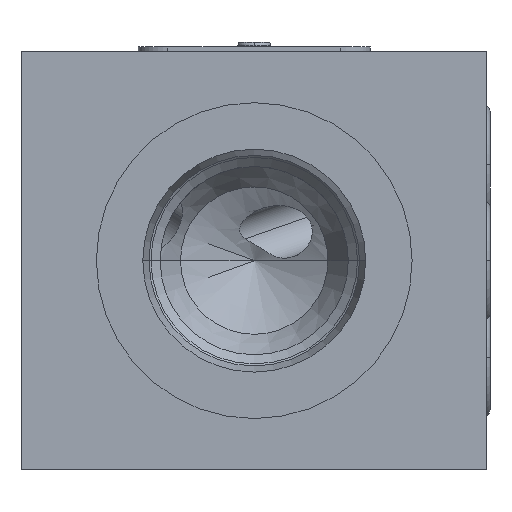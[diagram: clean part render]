
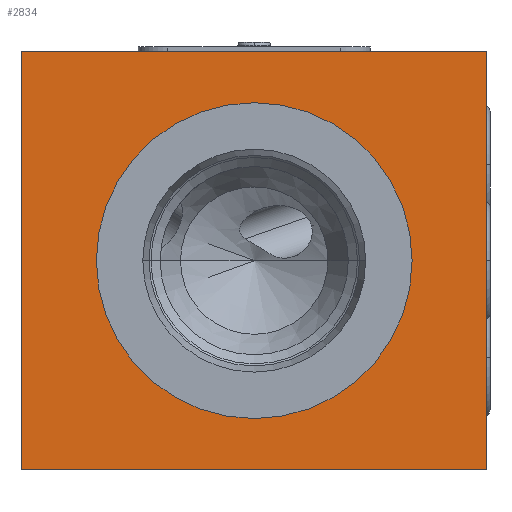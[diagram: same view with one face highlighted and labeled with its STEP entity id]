
A CAD part, left-side view. The second image highlights one B-rep face of the part: STEP entity #2834.
In plain terms, the highlighted planar face has unit normal (-1, 0, 0).
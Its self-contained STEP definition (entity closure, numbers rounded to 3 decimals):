
#55=DIRECTION('',(0.,0.,-1.));
#56=VECTOR('',#55,45.);
#57=CARTESIAN_POINT('',(0.,0.,0.));
#58=LINE('',#57,#56);
#62=DIRECTION('',(0.,1.,0.));
#63=VECTOR('',#62,50.);
#64=CARTESIAN_POINT('',(0.,0.,-45.));
#65=LINE('',#64,#63);
#69=DIRECTION('',(0.,0.,1.));
#70=VECTOR('',#69,45.);
#71=CARTESIAN_POINT('',(0.,50.,-45.));
#72=LINE('',#71,#70);
#76=DIRECTION('',(0.,-1.,0.));
#77=VECTOR('',#76,50.);
#78=CARTESIAN_POINT('',(0.,50.,0.));
#79=LINE('',#78,#77);
#83=CARTESIAN_POINT('',(0.,25.,-22.5));
#84=DIRECTION('',(1.,0.,0.));
#85=DIRECTION('',(0.,-1.,0.));
#86=AXIS2_PLACEMENT_3D('',#83,#84,#85);
#91=CARTESIAN_POINT('',(0.,25.,-22.5));
#92=DIRECTION('',(1.,0.,0.));
#93=DIRECTION('',(0.,1.,0.));
#94=AXIS2_PLACEMENT_3D('',#91,#92,#93);
#2543=CARTESIAN_POINT('',(0.,0.,0.));
#2544=CARTESIAN_POINT('',(0.,0.,-45.));
#2545=VERTEX_POINT('',#2543);
#2546=VERTEX_POINT('',#2544);
#2547=CARTESIAN_POINT('',(0.,50.,-45.));
#2548=VERTEX_POINT('',#2547);
#2549=CARTESIAN_POINT('',(0.,50.,0.));
#2550=VERTEX_POINT('',#2549);
#2735=CARTESIAN_POINT('',(0.,8.,-22.5));
#2736=VERTEX_POINT('',#2735);
#2737=CARTESIAN_POINT('',(0.,42.,-22.5));
#2738=VERTEX_POINT('',#2737);
#2813=CARTESIAN_POINT('',(0.,0.,0.));
#2814=DIRECTION('',(1.,0.,0.));
#2815=DIRECTION('',(0.,0.,-1.));
#2816=AXIS2_PLACEMENT_3D('',#2813,#2814,#2815);
#2817=PLANE('',#2816);
#2819=ORIENTED_EDGE('',*,*,#2818,.T.);
#2821=ORIENTED_EDGE('',*,*,#2820,.T.);
#2823=ORIENTED_EDGE('',*,*,#2822,.T.);
#2825=ORIENTED_EDGE('',*,*,#2824,.T.);
#2826=EDGE_LOOP('',(#2819,#2821,#2823,#2825));
#2827=FACE_OUTER_BOUND('',#2826,.F.);
#2829=ORIENTED_EDGE('',*,*,#2828,.F.);
#2831=ORIENTED_EDGE('',*,*,#2830,.F.);
#2832=EDGE_LOOP('',(#2829,#2831));
#2833=FACE_BOUND('',#2832,.F.);
#87=CIRCLE('',#86,17.);
#95=CIRCLE('',#94,17.);
#2818=EDGE_CURVE('',#2545,#2546,#58,.T.);
#2820=EDGE_CURVE('',#2546,#2548,#65,.T.);
#2822=EDGE_CURVE('',#2548,#2550,#72,.T.);
#2824=EDGE_CURVE('',#2550,#2545,#79,.T.);
#2828=EDGE_CURVE('',#2736,#2738,#87,.T.);
#2830=EDGE_CURVE('',#2738,#2736,#95,.T.);
#2834=ADVANCED_FACE('',(#2827,#2833),#2817,.F.);
